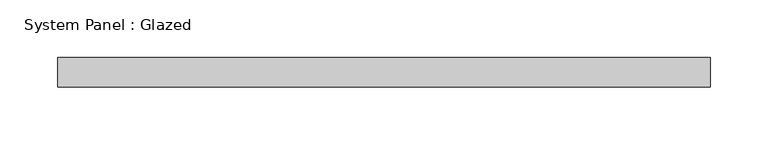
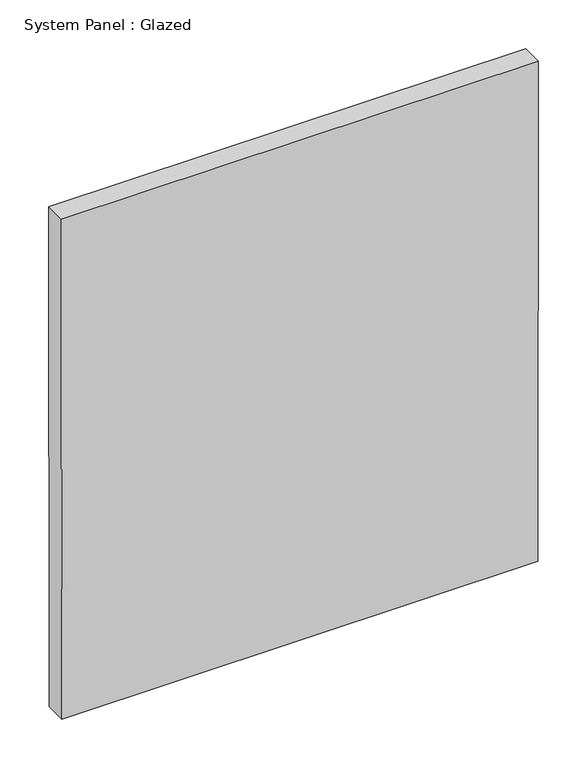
"""IFC4 building model written with IfcOpenShell, lengths in millimetres: plate geometry, System Panel : Glazed."""

from ifc_helpers import new_model, si_unit, frame, origin, place, context, project, spatial, polyline, outline, extrude, source, transform, mapped, element, save


def system_panel_glazed_620c5912(model_context):
    return source(origin(), model_context, "Body", "SweptSolid", [
        extrude(outline(polyline([(0.0, -281.6648053), (0.0, 281.6648053), (625.938359, 282.3262788), (625.938359, -282.3262788), (0.0, -281.6648053)])), frame((0.0, -44.45, 0.0), z_axis=(0.0, 1.0, 0.0), x_axis=(0.0, 0.0, 1.0)), (0.0, 0.0, 1.0), 25.4),
    ])


if __name__ == "__main__":
    model = new_model("IFC4")
    model_context = context("Model", 3, world=origin())
    ifc_project = project(units=[si_unit("LENGTHUNIT", "METRE", prefix="MILLI")], contexts=[model_context])
    site = spatial("IfcSite", under=ifc_project)
    building = spatial("IfcBuilding", under=site)
    placement = place(None, origin())
    system_panel_glazed_shape = system_panel_glazed_620c5912(model_context)
    element("IfcPlate", 1, ObjectType="System Panel : Glazed", at=placement, inside=building, context=model_context, shape_type="MappedRepresentation", body=[
        mapped(system_panel_glazed_shape, transform((0.0, 0.0, 0.0), x_axis=(1.0, 0.0, 0.0), y_axis=(0.0, 1.0, 0.0), z_axis=(0.0, 0.0, 1.0))),
    ])
    save(model, "model.ifc")
